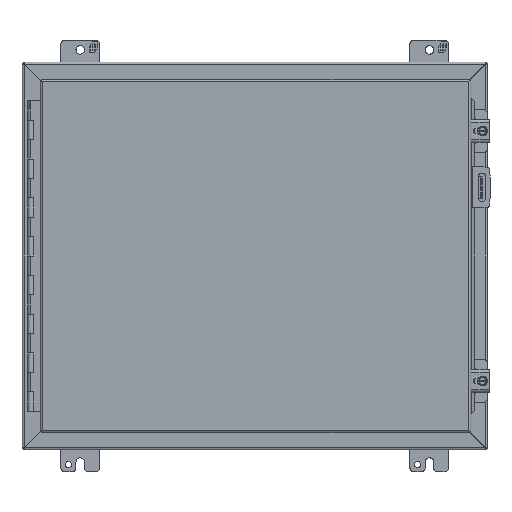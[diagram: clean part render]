
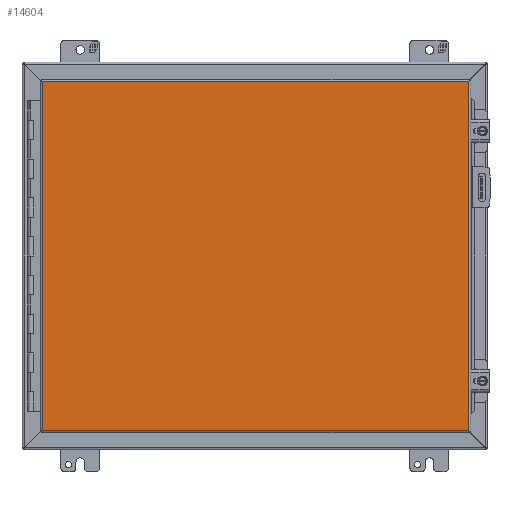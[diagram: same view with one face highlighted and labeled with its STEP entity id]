
A CAD part, front view. The second image highlights one B-rep face of the part: STEP entity #14604.
In plain terms, the highlighted planar face has unit normal (0, -1, 0).
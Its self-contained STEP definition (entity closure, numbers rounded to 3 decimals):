
#950=LINE('',#21921,#2343);
#951=LINE('',#21924,#2344);
#952=LINE('',#21926,#2345);
#953=LINE('',#21928,#2346);
#2343=VECTOR('',#17955,1000.);
#2344=VECTOR('',#17956,1000.);
#2345=VECTOR('',#17957,1000.);
#2346=VECTOR('',#17958,1000.);
#5454=ORIENTED_EDGE('',*,*,#8866,.T.);
#5455=ORIENTED_EDGE('',*,*,#8867,.T.);
#5456=ORIENTED_EDGE('',*,*,#8868,.T.);
#5457=ORIENTED_EDGE('',*,*,#8869,.T.);
#8866=EDGE_CURVE('',#10688,#10689,#950,.T.);
#8867=EDGE_CURVE('',#10689,#10690,#951,.T.);
#8868=EDGE_CURVE('',#10690,#10691,#952,.T.);
#8869=EDGE_CURVE('',#10691,#10688,#953,.T.);
#10688=VERTEX_POINT('',#21922);
#10689=VERTEX_POINT('',#21923);
#10690=VERTEX_POINT('',#21925);
#10691=VERTEX_POINT('',#21927);
#12234=EDGE_LOOP('',(#5454,#5455,#5456,#5457));
#13167=FACE_BOUND('',#12234,.T.);
#13963=PLANE('',#15740);
#14604=ADVANCED_FACE('',(#13167),#13963,.T.);
#15740=AXIS2_PLACEMENT_3D('',#21920,#17953,#17954);
#17953=DIRECTION('',(0.,-1.,0.));
#17954=DIRECTION('',(0.,0.,-1.));
#17955=DIRECTION('',(0.,0.,-1.));
#17956=DIRECTION('',(1.,0.,0.));
#17957=DIRECTION('',(0.,0.,1.));
#17958=DIRECTION('',(-1.,0.,0.));
#21920=CARTESIAN_POINT('',(-279.044,0.,-228.46));
#21921=CARTESIAN_POINT('',(-279.044,0.,228.46));
#21922=CARTESIAN_POINT('',(-279.044,0.,228.46));
#21923=CARTESIAN_POINT('',(-279.044,0.,-228.46));
#21924=CARTESIAN_POINT('',(-279.044,0.,-228.46));
#21925=CARTESIAN_POINT('',(279.044,0.,-228.46));
#21926=CARTESIAN_POINT('',(279.044,0.,-228.46));
#21927=CARTESIAN_POINT('',(279.044,0.,228.46));
#21928=CARTESIAN_POINT('',(279.044,0.,228.46));
